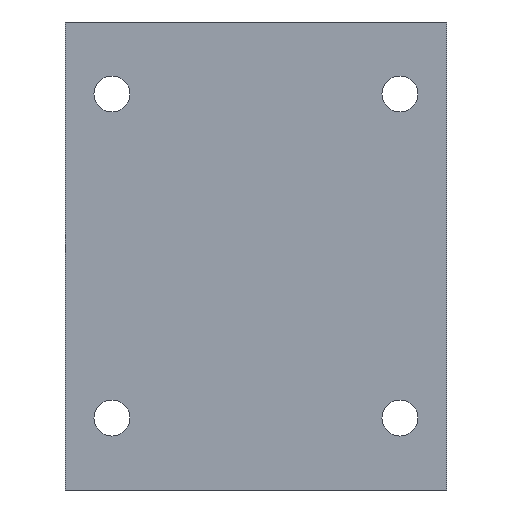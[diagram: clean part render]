
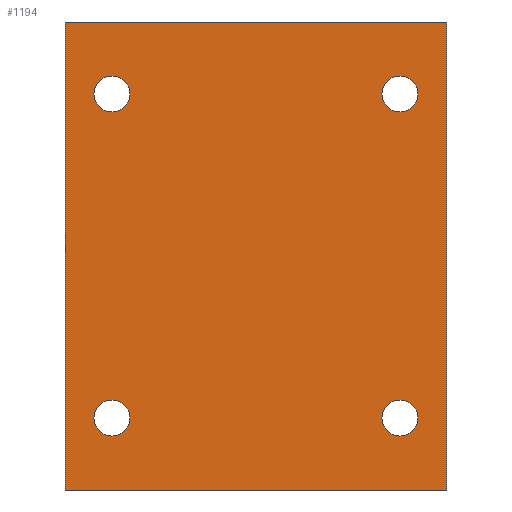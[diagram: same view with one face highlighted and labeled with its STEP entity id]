
A CAD part, front view. The second image highlights one B-rep face of the part: STEP entity #1194.
In plain terms, the highlighted planar face has unit normal (0, -1, 0).
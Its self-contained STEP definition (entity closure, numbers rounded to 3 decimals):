
#6 = EDGE_CURVE ( 'NONE', #826, #363, #814, .T. ) ;
#12 = EDGE_CURVE ( 'NONE', #392, #465, #121, .T. ) ;
#21 = DIRECTION ( 'NONE',  ( 0., -1., 0. ) ) ;
#22 = AXIS2_PLACEMENT_3D ( 'NONE', #691, #1140, #405 ) ;
#23 = DIRECTION ( 'NONE',  ( 0., 0., -1. ) ) ;
#40 = AXIS2_PLACEMENT_3D ( 'NONE', #1175, #161, #986 ) ;
#64 = CARTESIAN_POINT ( 'NONE',  ( -26.5, -22.5, 32.5 ) ) ;
#101 = DIRECTION ( 'NONE',  ( 0., 0., -1. ) ) ;
#121 = LINE ( 'NONE', #1133, #603 ) ;
#122 = DIRECTION ( 'NONE',  ( 0., -1., 0. ) ) ;
#146 = EDGE_CURVE ( 'NONE', #511, #392, #1076, .T. ) ;
#150 = CARTESIAN_POINT ( 'NONE',  ( -20., -22.5, -25. ) ) ;
#153 = VERTEX_POINT ( 'NONE', #789 ) ;
#161 = DIRECTION ( 'NONE',  ( 0., -1., 0. ) ) ;
#164 = VERTEX_POINT ( 'NONE', #150 ) ;
#176 = CARTESIAN_POINT ( 'NONE',  ( -20., -22.5, -20. ) ) ;
#188 = ORIENTED_EDGE ( 'NONE', *, *, #12, .F. ) ;
#198 = FACE_OUTER_BOUND ( 'NONE', #648, .T. ) ;
#201 = DIRECTION ( 'NONE',  ( 0., 1., 0. ) ) ;
#206 = VERTEX_POINT ( 'NONE', #176 ) ;
#227 = DIRECTION ( 'NONE',  ( 0., -1., 0. ) ) ;
#228 = CARTESIAN_POINT ( 'NONE',  ( -20., -22.5, 20. ) ) ;
#264 = EDGE_CURVE ( 'NONE', #987, #1189, #395, .T. ) ;
#266 = ORIENTED_EDGE ( 'NONE', *, *, #813, .T. ) ;
#281 = CARTESIAN_POINT ( 'NONE',  ( 20., -22.5, -20. ) ) ;
#285 = EDGE_LOOP ( 'NONE', ( #632, #1023 ) ) ;
#292 = CARTESIAN_POINT ( 'NONE',  ( 20., -22.5, 22.5 ) ) ;
#293 = AXIS2_PLACEMENT_3D ( 'NONE', #1037, #201, #1043 ) ;
#300 = DIRECTION ( 'NONE',  ( 0., -1., 0. ) ) ;
#308 = CARTESIAN_POINT ( 'NONE',  ( 26.5, -22.5, 32.5 ) ) ;
#319 = CIRCLE ( 'NONE', #40, 2.5 ) ;
#320 = VERTEX_POINT ( 'NONE', #326 ) ;
#326 = CARTESIAN_POINT ( 'NONE',  ( -26.5, -22.5, -32.5 ) ) ;
#329 = CARTESIAN_POINT ( 'NONE',  ( 20., -22.5, -25. ) ) ;
#345 = CARTESIAN_POINT ( 'NONE',  ( -26.5, -22.5, 32.5 ) ) ;
#363 = VERTEX_POINT ( 'NONE', #228 ) ;
#379 = ORIENTED_EDGE ( 'NONE', *, *, #541, .F. ) ;
#383 = EDGE_CURVE ( 'NONE', #1189, #987, #846, .T. ) ;
#392 = VERTEX_POINT ( 'NONE', #308 ) ;
#395 = CIRCLE ( 'NONE', #22, 2.5 ) ;
#405 = DIRECTION ( 'NONE',  ( 0., 0., -1. ) ) ;
#465 = VERTEX_POINT ( 'NONE', #944 ) ;
#477 = CARTESIAN_POINT ( 'NONE',  ( -26.5, -22.5, -32.5 ) ) ;
#485 = VECTOR ( 'NONE', #539, 1000. ) ;
#504 = CARTESIAN_POINT ( 'NONE',  ( -20., -22.5, 22.5 ) ) ;
#511 = VERTEX_POINT ( 'NONE', #345 ) ;
#524 = AXIS2_PLACEMENT_3D ( 'NONE', #292, #21, #760 ) ;
#533 = ORIENTED_EDGE ( 'NONE', *, *, #383, .F. ) ;
#536 = ORIENTED_EDGE ( 'NONE', *, *, #647, .F. ) ;
#539 = DIRECTION ( 'NONE',  ( 1., 0., 0. ) ) ;
#541 = EDGE_CURVE ( 'NONE', #164, #206, #669, .T. ) ;
#561 = LINE ( 'NONE', #477, #777 ) ;
#565 = FACE_BOUND ( 'NONE', #285, .T. ) ;
#584 = AXIS2_PLACEMENT_3D ( 'NONE', #504, #227, #661 ) ;
#590 = CARTESIAN_POINT ( 'NONE',  ( -20., -22.5, -22.5 ) ) ;
#603 = VECTOR ( 'NONE', #1039, 1000. ) ;
#613 = ORIENTED_EDGE ( 'NONE', *, *, #1024, .T. ) ;
#632 = ORIENTED_EDGE ( 'NONE', *, *, #1173, .F. ) ;
#647 = EDGE_CURVE ( 'NONE', #363, #826, #319, .T. ) ;
#648 = EDGE_LOOP ( 'NONE', ( #266, #188, #674, #613 ) ) ;
#651 = ORIENTED_EDGE ( 'NONE', *, *, #1186, .F. ) ;
#661 = DIRECTION ( 'NONE',  ( 0., 0., -1. ) ) ;
#666 = CARTESIAN_POINT ( 'NONE',  ( -20., -22.5, 25. ) ) ;
#669 = CIRCLE ( 'NONE', #1167, 2.5 ) ;
#674 = ORIENTED_EDGE ( 'NONE', *, *, #146, .F. ) ;
#682 = CARTESIAN_POINT ( 'NONE',  ( 20., -22.5, -22.5 ) ) ;
#691 = CARTESIAN_POINT ( 'NONE',  ( 20., -22.5, -22.5 ) ) ;
#695 = CARTESIAN_POINT ( 'NONE',  ( 20., -22.5, 20. ) ) ;
#731 = DIRECTION ( 'NONE',  ( 0., 0., -1. ) ) ;
#734 = CIRCLE ( 'NONE', #915, 2.5 ) ;
#736 = FACE_BOUND ( 'NONE', #863, .T. ) ;
#743 = EDGE_CURVE ( 'NONE', #153, #919, #734, .T. ) ;
#746 = FACE_BOUND ( 'NONE', #1097, .T. ) ;
#750 = CIRCLE ( 'NONE', #524, 2.5 ) ;
#760 = DIRECTION ( 'NONE',  ( 0., 0., -1. ) ) ;
#767 = ORIENTED_EDGE ( 'NONE', *, *, #6, .F. ) ;
#777 = VECTOR ( 'NONE', #1038, 1000. ) ;
#789 = CARTESIAN_POINT ( 'NONE',  ( 20., -22.5, 25. ) ) ;
#812 = CIRCLE ( 'NONE', #1014, 2.5 ) ;
#813 = EDGE_CURVE ( 'NONE', #320, #465, #561, .T. ) ;
#814 = CIRCLE ( 'NONE', #584, 2.5 ) ;
#826 = VERTEX_POINT ( 'NONE', #666 ) ;
#840 = CARTESIAN_POINT ( 'NONE',  ( -20., -22.5, -22.5 ) ) ;
#846 = CIRCLE ( 'NONE', #1074, 2.5 ) ;
#863 = EDGE_LOOP ( 'NONE', ( #974, #533 ) ) ;
#865 = DIRECTION ( 'NONE',  ( 0., -1., 0. ) ) ;
#915 = AXIS2_PLACEMENT_3D ( 'NONE', #941, #954, #23 ) ;
#919 = VERTEX_POINT ( 'NONE', #695 ) ;
#939 = FACE_BOUND ( 'NONE', #1019, .T. ) ;
#941 = CARTESIAN_POINT ( 'NONE',  ( 20., -22.5, 22.5 ) ) ;
#944 = CARTESIAN_POINT ( 'NONE',  ( 26.5, -22.5, -32.5 ) ) ;
#954 = DIRECTION ( 'NONE',  ( 0., -1., 0. ) ) ;
#964 = DIRECTION ( 'NONE',  ( 0., 0., -1. ) ) ;
#974 = ORIENTED_EDGE ( 'NONE', *, *, #264, .F. ) ;
#986 = DIRECTION ( 'NONE',  ( 0., 0., -1. ) ) ;
#987 = VERTEX_POINT ( 'NONE', #329 ) ;
#1006 = CARTESIAN_POINT ( 'NONE',  ( -26.5, -22.5, 32.5 ) ) ;
#1014 = AXIS2_PLACEMENT_3D ( 'NONE', #840, #300, #101 ) ;
#1017 = LINE ( 'NONE', #1006, #1110 ) ;
#1019 = EDGE_LOOP ( 'NONE', ( #379, #651 ) ) ;
#1023 = ORIENTED_EDGE ( 'NONE', *, *, #743, .F. ) ;
#1024 = EDGE_CURVE ( 'NONE', #511, #320, #1017, .T. ) ;
#1032 = PLANE ( 'NONE',  #293 ) ;
#1037 = CARTESIAN_POINT ( 'NONE',  ( -26.5, -22.5, 32.5 ) ) ;
#1038 = DIRECTION ( 'NONE',  ( 1., 0., 0. ) ) ;
#1039 = DIRECTION ( 'NONE',  ( 0., 0., -1. ) ) ;
#1043 = DIRECTION ( 'NONE',  ( 0., 0., 1. ) ) ;
#1060 = DIRECTION ( 'NONE',  ( 0., 0., -1. ) ) ;
#1074 = AXIS2_PLACEMENT_3D ( 'NONE', #682, #122, #1060 ) ;
#1076 = LINE ( 'NONE', #64, #485 ) ;
#1097 = EDGE_LOOP ( 'NONE', ( #536, #767 ) ) ;
#1110 = VECTOR ( 'NONE', #731, 1000. ) ;
#1133 = CARTESIAN_POINT ( 'NONE',  ( 26.5, -22.5, 32.5 ) ) ;
#1140 = DIRECTION ( 'NONE',  ( 0., -1., 0. ) ) ;
#1167 = AXIS2_PLACEMENT_3D ( 'NONE', #590, #865, #964 ) ;
#1173 = EDGE_CURVE ( 'NONE', #919, #153, #750, .T. ) ;
#1175 = CARTESIAN_POINT ( 'NONE',  ( -20., -22.5, 22.5 ) ) ;
#1186 = EDGE_CURVE ( 'NONE', #206, #164, #812, .T. ) ;
#1189 = VERTEX_POINT ( 'NONE', #281 ) ;
#1194 = ADVANCED_FACE ( 'NONE', ( #746, #565, #198, #939, #736 ), #1032, .F. ) ;
